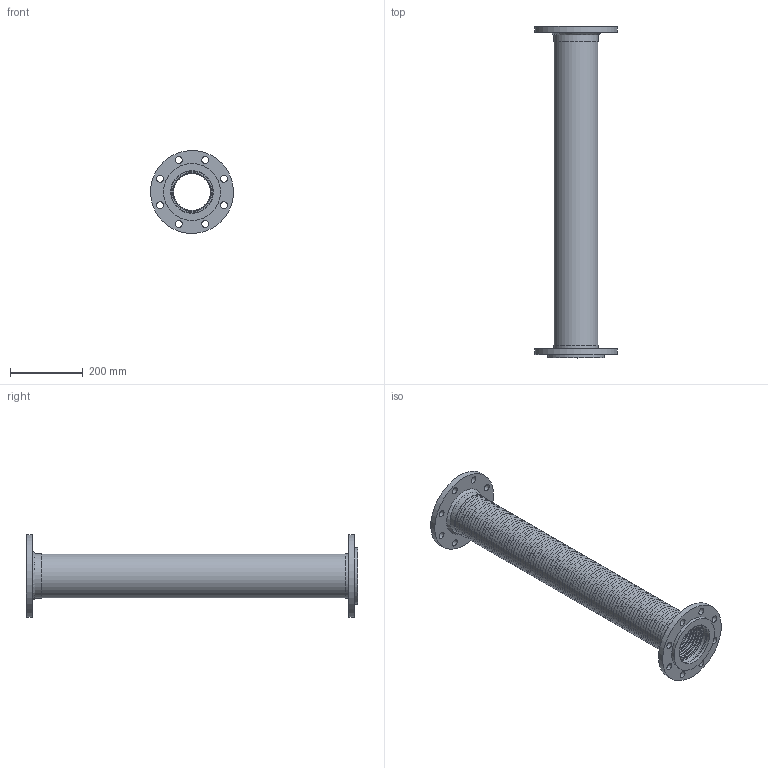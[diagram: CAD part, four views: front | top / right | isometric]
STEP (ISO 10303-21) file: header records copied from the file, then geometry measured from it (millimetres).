
FILE_DESCRIPTION((''),'2;1');
FILE_NAME('C:\REVIT SHARED FILES\STP\FFL4x36ASA150.stp','2013-06-14T19:02:39',('rramoutar'),(''),'Autodesk Inventor 2012','Autodesk Inventor 2012','');
FILE_SCHEMA(('AUTOMOTIVE_DESIGN { 1 0 10303 214 1 1 1 1 }'));
Length unit declared in the file: inch
Products named in the file (8): FFL 4x36 Per A-30309-3; FFL 4x36 Per A-30309-3_Welds; A-30302-2 FIXED FLANGE 4 inch 150 #; A-30303-1 FLOATING FLANGE 4 inch 150 #; A-30840-1 VFL 4.0 inch WELDED WASHER; A-29781-7 4.0 inch braid collar; FFL 4x36 Stainless Braid; FFL 4x36 Stainless Hose
Assembly tree (8 placements, depth 2):
  FFL 4x36 Per A-30309-3
    FFL 4x36 Per A-30309-3_Welds
    A-30302-2 FIXED FLANGE 4 inch 150 #
    A-30303-1 FLOATING FLANGE 4 inch 150 #
    A-30840-1 VFL 4.0 inch WELDED WASHER
    A-29781-7 4.0 inch braid collar  x2
    FFL 4x36 Stainless Braid
    FFL 4x36 Stainless Hose
Bounding box: 228.38 x 914.4 x 228.38 mm (x, y, z)
Volume: 1411312 mm3; surface area: 2395149.5 mm2
Topology: 9 solids, 9 shells, 797 faces, 1243 edges, 835 vertices
Faces by surface type: plane 389, torus 374, cylinder 31, bspline 2, cone 1
Full cylindrical faces by diameter (mm): 19.05 x16, 117.475 x2, 119.888 x1, 120.701 x3, 123.082 x4, 131.763 x1, 157.163 x2, 228.6 x2
Entity records: 16798 total; most frequent: DIRECTION 3224, CARTESIAN_POINT 2815, ORIENTED_EDGE 1630, EDGE_LOOP 1616, AXIS2_PLACEMENT_3D 1612, FACE_BOUND 823, EDGE_CURVE 815, VERTEX_POINT 813
